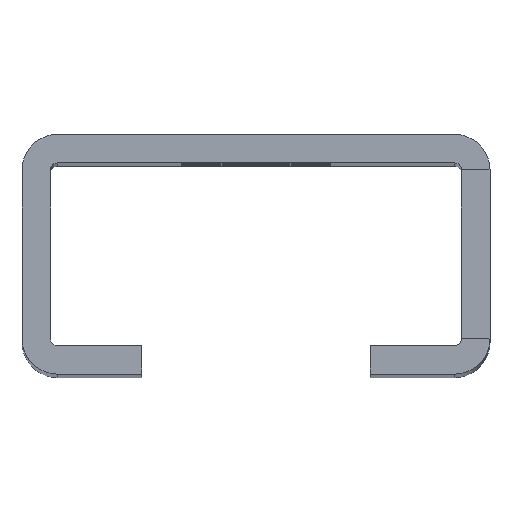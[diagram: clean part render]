
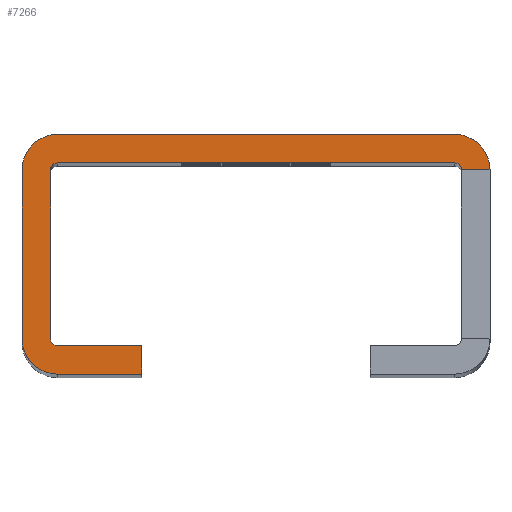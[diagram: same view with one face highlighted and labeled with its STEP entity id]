
A CAD part, top view. The second image highlights one B-rep face of the part: STEP entity #7266.
In plain terms, the highlighted planar face has unit normal (0, 0, 1).
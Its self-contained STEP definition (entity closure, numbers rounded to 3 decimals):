
#526=CARTESIAN_POINT(' ',(-18.,-7.4,87.5));
#527=VERTEX_POINT(' ',#526);
#1891=CARTESIAN_POINT(' ',(-20.5,-7.4,87.5));
#1892=VERTEX_POINT(' ',#1891);
#3381=CARTESIAN_POINT(' ',(-20.5,-7.4,87.5));
#3386=DIRECTION(' ',(1.,0.,0.));
#3391=VECTOR(' ',#3386,1.);
#3396=LINE('',#3381,#3391);
#3401=EDGE_CURVE(' ',#1892,#527,#3396,.T.);
#3531=CARTESIAN_POINT(' ',(-17.4,-7.4,87.5));
#3536=DIRECTION(' ',(0.,0.,-1.));
#3541=DIRECTION(' ',(0.,-1.,0.));
#3546=AXIS2_PLACEMENT_3D(' ',#3531,#3536,#3541);
#3551=CIRCLE('',#3546,0.6);
#3556=CARTESIAN_POINT(' ',(-17.4,-8.,87.5));
#3557=VERTEX_POINT(' ',#3556);
#3561=EDGE_CURVE(' ',#3557,#527,#3551,.T.);
#5741=CARTESIAN_POINT(' ',(-17.4,-10.5,87.5));
#5742=VERTEX_POINT(' ',#5741);
#5756=CARTESIAN_POINT(' ',(-17.401,-7.401,87.5));
#5761=DIRECTION(' ',(0.,0.,-1.));
#5766=DIRECTION(' ',(0.,-1.,0.));
#5771=AXIS2_PLACEMENT_3D(' ',#5756,#5761,#5766);
#5776=CIRCLE('',#5771,3.099);
#5781=EDGE_CURVE(' ',#5742,#1892,#5776,.T.);
#6816=DIRECTION(' ',(-0.,-0.,1.));
#6821=CARTESIAN_POINT(' ',(-15.655,-22.166,87.5));
#6826=DIRECTION(' ',(0.945,0.328,0.));
#6831=AXIS2_PLACEMENT_3D(' ',#6821,#6816,#6826);
#6836=PLANE('',#6831);
#6841=ORIENTED_EDGE(' ',*,*,#3401,.F.);
#6846=ORIENTED_EDGE(' ',*,*,#5781,.F.);
#6851=CARTESIAN_POINT(' ',(17.4,-10.5,87.5));
#6856=DIRECTION(' ',(-1.,0.,0.));
#6861=VECTOR(' ',#6856,1.);
#6866=LINE('',#6851,#6861);
#6871=CARTESIAN_POINT(' ',(17.4,-10.5,87.5));
#6872=VERTEX_POINT(' ',#6871);
#6876=EDGE_CURVE(' ',#6872,#5742,#6866,.T.);
#6881=ORIENTED_EDGE(' ',*,*,#6876,.F.);
#6886=CARTESIAN_POINT(' ',(17.401,-7.401,87.5));
#6891=DIRECTION(' ',(-0.,0.,-1.));
#6896=DIRECTION(' ',(1.,0.,0.));
#6901=AXIS2_PLACEMENT_3D(' ',#6886,#6891,#6896);
#6906=CIRCLE('',#6901,3.099);
#6911=CARTESIAN_POINT(' ',(20.5,-7.4,87.5));
#6912=VERTEX_POINT(' ',#6911);
#6916=EDGE_CURVE(' ',#6912,#6872,#6906,.T.);
#6921=ORIENTED_EDGE(' ',*,*,#6916,.F.);
#6926=CARTESIAN_POINT(' ',(20.5,7.4,87.5));
#6931=DIRECTION(' ',(0.,-1.,0.));
#6936=VECTOR(' ',#6931,1.);
#6941=LINE('',#6926,#6936);
#6946=CARTESIAN_POINT(' ',(20.5,7.4,87.5));
#6947=VERTEX_POINT(' ',#6946);
#6951=EDGE_CURVE(' ',#6947,#6912,#6941,.T.);
#6956=ORIENTED_EDGE(' ',*,*,#6951,.F.);
#6961=CARTESIAN_POINT(' ',(17.401,7.401,87.5));
#6966=DIRECTION(' ',(0.,0.,-1.));
#6971=DIRECTION(' ',(0.,1.,0.));
#6976=AXIS2_PLACEMENT_3D(' ',#6961,#6966,#6971);
#6981=CIRCLE('',#6976,3.099);
#6986=CARTESIAN_POINT(' ',(17.4,10.5,87.5));
#6987=VERTEX_POINT(' ',#6986);
#6991=EDGE_CURVE(' ',#6987,#6947,#6981,.T.);
#6996=ORIENTED_EDGE(' ',*,*,#6991,.F.);
#7001=CARTESIAN_POINT(' ',(10.,10.5,87.5));
#7006=DIRECTION(' ',(1.,0.,0.));
#7011=VECTOR(' ',#7006,1.);
#7016=LINE('',#7001,#7011);
#7021=CARTESIAN_POINT(' ',(10.,10.5,87.5));
#7022=VERTEX_POINT(' ',#7021);
#7026=EDGE_CURVE(' ',#7022,#6987,#7016,.T.);
#7031=ORIENTED_EDGE(' ',*,*,#7026,.F.);
#7036=CARTESIAN_POINT(' ',(10.,8.,87.5));
#7041=DIRECTION(' ',(0.,1.,0.));
#7046=VECTOR(' ',#7041,1.);
#7051=LINE('',#7036,#7046);
#7056=CARTESIAN_POINT(' ',(10.,8.,87.5));
#7057=VERTEX_POINT(' ',#7056);
#7061=EDGE_CURVE(' ',#7057,#7022,#7051,.T.);
#7066=ORIENTED_EDGE(' ',*,*,#7061,.F.);
#7071=CARTESIAN_POINT(' ',(10.,8.,87.5));
#7076=DIRECTION(' ',(1.,0.,0.));
#7081=VECTOR(' ',#7076,1.);
#7086=LINE('',#7071,#7081);
#7091=CARTESIAN_POINT(' ',(17.4,8.,87.5));
#7092=VERTEX_POINT(' ',#7091);
#7096=EDGE_CURVE(' ',#7057,#7092,#7086,.T.);
#7101=ORIENTED_EDGE(' ',*,*,#7096,.T.);
#7106=CARTESIAN_POINT(' ',(17.4,7.4,87.5));
#7111=DIRECTION(' ',(0.,0.,-1.));
#7116=DIRECTION(' ',(0.,1.,0.));
#7121=AXIS2_PLACEMENT_3D(' ',#7106,#7111,#7116);
#7126=CIRCLE('',#7121,0.6);
#7131=CARTESIAN_POINT(' ',(18.,7.4,87.5));
#7132=VERTEX_POINT(' ',#7131);
#7136=EDGE_CURVE(' ',#7092,#7132,#7126,.T.);
#7141=ORIENTED_EDGE(' ',*,*,#7136,.T.);
#7146=CARTESIAN_POINT(' ',(18.,7.4,87.5));
#7151=DIRECTION(' ',(0.,-1.,0.));
#7156=VECTOR(' ',#7151,1.);
#7161=LINE('',#7146,#7156);
#7166=CARTESIAN_POINT(' ',(18.,-7.4,87.5));
#7167=VERTEX_POINT(' ',#7166);
#7171=EDGE_CURVE(' ',#7132,#7167,#7161,.T.);
#7176=ORIENTED_EDGE(' ',*,*,#7171,.T.);
#7181=CARTESIAN_POINT(' ',(17.4,-7.4,87.5));
#7186=DIRECTION(' ',(-0.,0.,-1.));
#7191=DIRECTION(' ',(1.,0.,0.));
#7196=AXIS2_PLACEMENT_3D(' ',#7181,#7186,#7191);
#7201=CIRCLE('',#7196,0.6);
#7206=CARTESIAN_POINT(' ',(17.4,-8.,87.5));
#7207=VERTEX_POINT(' ',#7206);
#7211=EDGE_CURVE(' ',#7167,#7207,#7201,.T.);
#7216=ORIENTED_EDGE(' ',*,*,#7211,.T.);
#7221=CARTESIAN_POINT(' ',(17.4,-8.,87.5));
#7226=DIRECTION(' ',(-1.,0.,0.));
#7231=VECTOR(' ',#7226,1.);
#7236=LINE('',#7221,#7231);
#7241=EDGE_CURVE(' ',#7207,#3557,#7236,.T.);
#7246=ORIENTED_EDGE(' ',*,*,#7241,.T.);
#7251=ORIENTED_EDGE(' ',*,*,#3561,.T.);
#7256=EDGE_LOOP(' ',(#6841,#6846,#6881,#6921,#6956,#6996,#7031,#7066,#7101,#7141,#7176,#7216,#7246,#7251));
#7261=FACE_OUTER_BOUND(' ',#7256,.T.);
#7266=ADVANCED_FACE('',(#7261),#6836,.T.);
